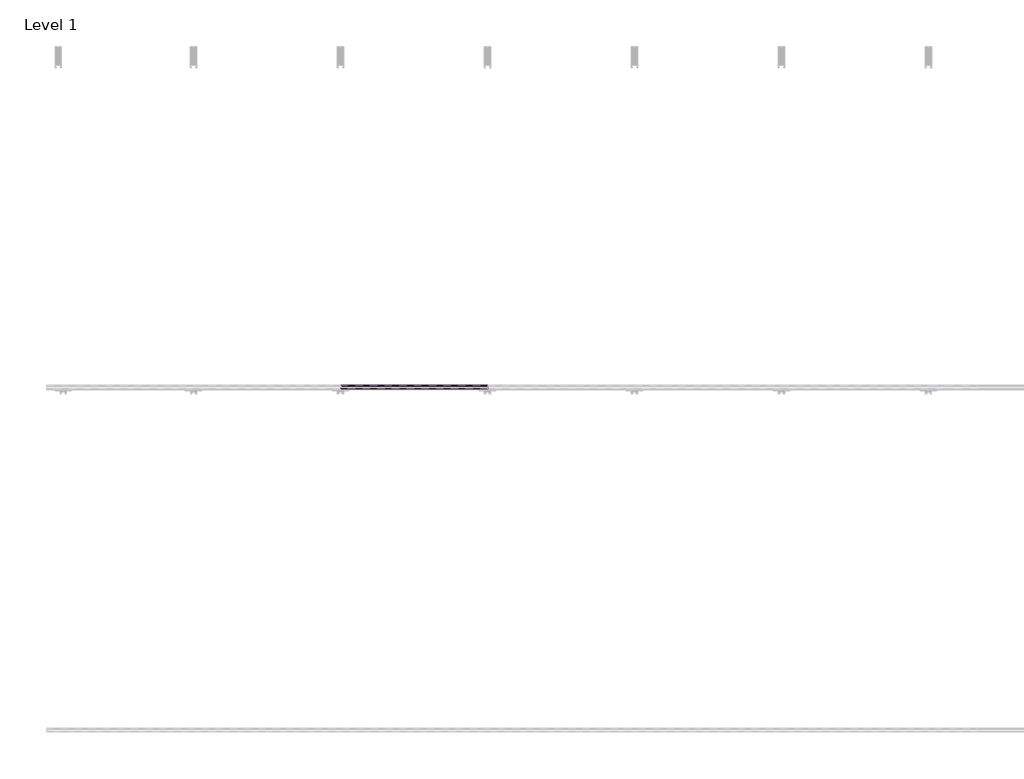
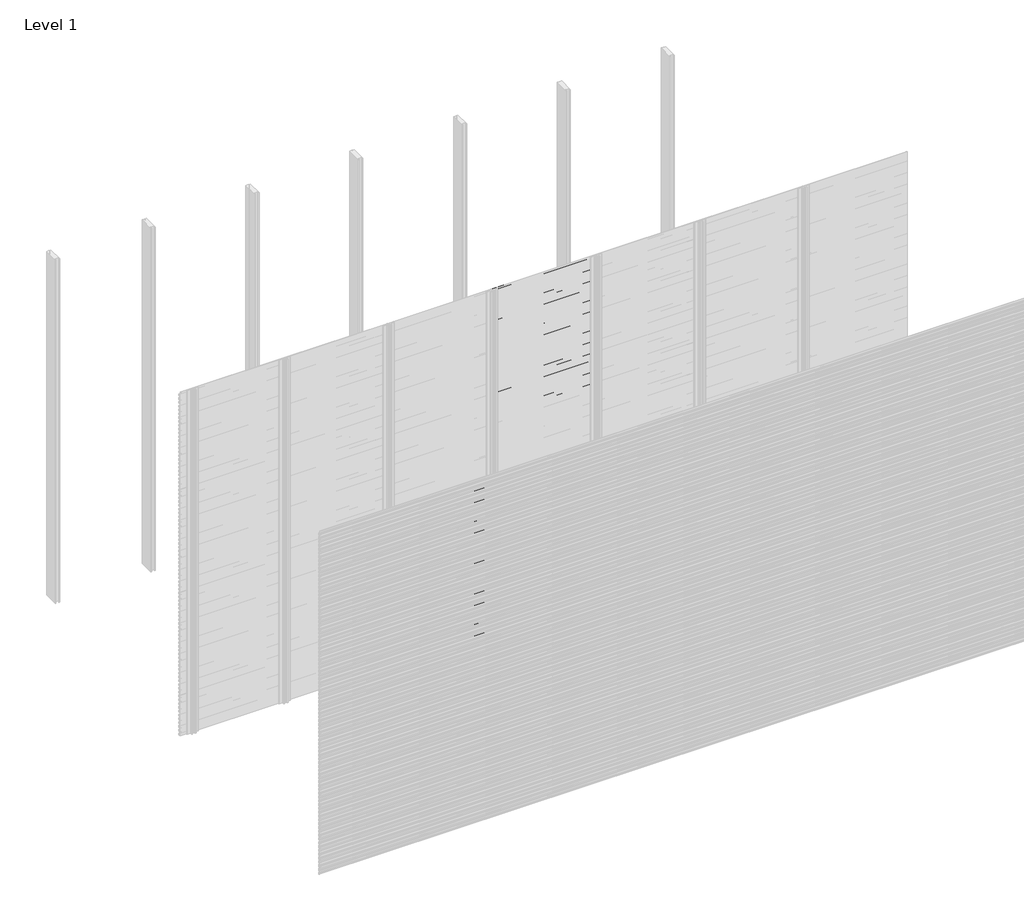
# One storey, part 8 of 96: 77 proxies.
"""IFC4 building model written with IfcOpenShell, lengths in millimetres."""

import ifcopenshell
import ifcopenshell.guid

model = None  # the IFC model being written
_history = None  # IfcOwnerHistory: only IFC2X3 demands one
_inside = {}  # id of a spatial element -> (the spatial element, [elements in it])
_under = {}  # id of a project, library or spatial element -> (it, [spatial elements below it])
_declared = {}  # id of a project -> (the project, [libraries it declares])
_typed = {}  # id of a type object -> (the type object, [elements of that type])
_made_of = {}  # id of a material, layer set ... -> (it, [elements and type objects made of it])


def new_model(schema):
    """Start an empty IFC model of exactly this schema.

    Asked for "IFC4X3", IfcOpenShell would pick the latest addendum, in which some entities
    have other attributes; the version numbers below select the first issue.
    IFC2X3 requires an IfcOwnerHistory on every rooted entity: one is made here for all.
    """
    global model, _history
    if schema == "IFC4X3":
        model = ifcopenshell.file(schema_version=(4, 3, 0, 0))
    else:
        model = ifcopenshell.file(schema=schema)
    _inside.clear()
    _under.clear()
    _declared.clear()
    _typed.clear()
    _made_of.clear()
    _history = None
    if model.schema == "IFC2X3":
        org = make("IfcOrganization", Name="unknown")
        user = make(
            "IfcPersonAndOrganization",
            ThePerson=make("IfcPerson", FamilyName="unknown"),
            TheOrganization=org,
        )
        app = make(
            "IfcApplication",
            ApplicationDeveloper=org,
            Version="unknown",
            ApplicationFullName="unknown",
            ApplicationIdentifier="unknown",
        )
        _history = make(
            "IfcOwnerHistory",
            OwningUser=user,
            OwningApplication=app,
            ChangeAction="ADDED",
            CreationDate=0,
        )
    return model


def make(cls, **values):
    """One entity of the class cls with the attributes given. An attribute that is None is left unset."""
    return model.create_entity(
        cls, **{name: value for name, value in values.items() if value is not None}
    )


def rooted(cls, **values):
    """An entity with a GlobalId (a new one), such as an element, a storey or a relation."""
    return make(cls, GlobalId=ifcopenshell.guid.new(), OwnerHistory=_history, **values)


def si_unit(unit_type, name, prefix=None):
    """IfcSIUnit, for example si_unit("LENGTHUNIT", "METRE", prefix="MILLI")."""
    return make("IfcSIUnit", UnitType=unit_type, Prefix=prefix, Name=name)


def assignment(units):
    """IfcUnitAssignment: the units of a project."""
    return None if units is None else make("IfcUnitAssignment", Units=units)


def point(xyz):
    """IfcCartesianPoint."""
    return None if xyz is None else make("IfcCartesianPoint", Coordinates=xyz)


def direction(xyz):
    """IfcDirection."""
    return None if xyz is None else make("IfcDirection", DirectionRatios=xyz)


def frame(location, z_axis=None, x_axis=None):
    """IfcAxis2Placement3D, a coordinate frame: its origin and axes. An axis left out is left unset."""
    return make(
        "IfcAxis2Placement3D",
        Location=point(location),
        Axis=direction(z_axis),
        RefDirection=direction(x_axis),
    )


def origin():
    """The frame at (0, 0, 0) with its axes left unset."""
    return frame((0.0, 0.0, 0.0))


def place(relative_to, where):
    """IfcLocalPlacement: puts the frame where relative to a parent placement (None: the world)."""
    return make(
        "IfcLocalPlacement", PlacementRelTo=relative_to, RelativePlacement=where
    )


def context(
    kind, dimensions, precision=None, world=None, true_north=None, identifier=None
):
    """IfcGeometricRepresentationContext, for example the 3D "Model" context."""
    return make(
        "IfcGeometricRepresentationContext",
        ContextIdentifier=identifier,
        ContextType=kind,
        CoordinateSpaceDimension=dimensions,
        Precision=precision,
        WorldCoordinateSystem=world,
        TrueNorth=true_north,
    )


def project(units=None, contexts=None):
    """IfcProject with its units and contexts."""
    return rooted(
        "IfcProject",
        Name="project",
        RepresentationContexts=contexts,
        UnitsInContext=assignment(units),
    )


def spatial(cls, under=None, at=None, **own):
    """A site, building, storey or space (cls), placed at a placement, below another one or the project."""
    s = rooted(cls, ObjectPlacement=at, **own)
    if under is not None:
        _under.setdefault(under.id(), (under, []))[1].append(s)
    return s


def polyline(points):
    """IfcPolyline through the points."""
    return make("IfcPolyline", Points=[point(p) for p in points])


def outline(outer, holes=None, kind="AREA"):
    """IfcArbitraryClosedProfileDef: a profile drawn as a closed curve; with holes, ...WithVoids."""
    if holes is None:
        return make("IfcArbitraryClosedProfileDef", ProfileType=kind, OuterCurve=outer)
    return make(
        "IfcArbitraryProfileDefWithVoids",
        ProfileType=kind,
        OuterCurve=outer,
        InnerCurves=holes,
    )


def extrude(swept, where, along, depth):
    """IfcExtrudedAreaSolid: the profile swept, set in the frame where, extruded along a direction by depth."""
    return make(
        "IfcExtrudedAreaSolid",
        SweptArea=swept,
        Position=where,
        ExtrudedDirection=direction(along),
        Depth=depth,
    )


def shape(context_of_items, identifier, shape_type, items):
    """IfcShapeRepresentation: the items that make up one representation, for example the "Body"."""
    return make(
        "IfcShapeRepresentation",
        ContextOfItems=context_of_items,
        RepresentationIdentifier=identifier,
        RepresentationType=shape_type,
        Items=items,
    )


def made_of(thing, what):
    """Note that an element or type object is made of a material, layer set ...; save() writes the relation."""
    if what is not None:
        _made_of.setdefault(what.id(), (what, []))[1].append(thing)
    return thing


def element(
    cls,
    number,
    at=None,
    inside=None,
    cuts=None,
    type_object=None,
    material=None,
    context=None,
    identifier="Body",
    shape_type=None,
    held_by="IfcProductDefinitionShape",
    body=None,
    shapes=None,
    **own,
):
    """One element of the class cls, such as IfcWall. Its Tag is "e" and its number.

    at: its placement. inside: the storey or other place that contains it. cuts: it is an
    opening in that element (IfcRelVoidsElement). A single representation is given by context,
    identifier, shape_type and body (its items); several are given by shapes. held_by: the class
    of the entity that holds the representations. save() writes the other relations.
    """
    e = rooted(cls, Tag="e%d" % number, ObjectPlacement=at, **own)
    if body is not None:
        shapes = [shape(context, identifier, shape_type, body)]
    if shapes is not None:
        e.Representation = make(held_by, Representations=shapes)
    if inside is not None:
        _inside.setdefault(inside.id(), (inside, []))[1].append(e)
    if cuts is not None:
        rooted(
            "IfcRelVoidsElement", RelatingBuildingElement=cuts, RelatedOpeningElement=e
        )
    if type_object is not None:
        _typed.setdefault(type_object.id(), (type_object, []))[1].append(e)
    return made_of(e, material)


def aggregate(whole, parts):
    """IfcRelAggregates: a whole, such as a stair, and the parts it consists of."""
    return rooted("IfcRelAggregates", RelatingObject=whole, RelatedObjects=parts)


def save(model, path):
    """Write the relations noted so far, then the file.

    IfcRelAggregates (storeys below a building ...), IfcRelContainedInSpatialStructure (elements
    in a storey), IfcRelDefinesByType, IfcRelAssociatesMaterial and IfcRelDeclares: one each for
    every whole, place, type object, material and project.
    """
    for whole, parts in _under.values():
        aggregate(whole, parts)
    for where, things in _inside.values():
        rooted(
            "IfcRelContainedInSpatialStructure",
            RelatedElements=things,
            RelatingStructure=where,
        )
    for kind, things in _typed.values():
        rooted("IfcRelDefinesByType", RelatedObjects=things, RelatingType=kind)
    for what, things in _made_of.values():
        rooted("IfcRelAssociatesMaterial", RelatedObjects=things, RelatingMaterial=what)
    for by, libraries in _declared.values():
        rooted("IfcRelDeclares", RelatingContext=by, RelatedDefinitions=libraries)
    model.write(path)


model = new_model("IFC4")

# Units and contexts
model_context = context("Model", 3, world=origin())
ifc_project = project(units=[si_unit("LENGTHUNIT", "METRE", prefix="MILLI")], contexts=[model_context])

# Site, building, storey
site = spatial("IfcSite", under=ifc_project)
building = spatial("IfcBuilding", under=site)
storey = spatial("IfcBuildingStorey", under=building, Name="Level 1", Elevation=0.0)

# Proxies
placement = place(None, origin())
element("IfcBuildingElementProxy", 1, Name="Wall Sweeps", at=placement, inside=storey, context=model_context, shape_type="SweptSolid", body=[
    extrude(outline(polyline([(-53977.6, 1373.3655033), (-53977.6, 1359.0779188), (-53982.4114965, 1356.3), (-53982.4114965, 1357.5701706), (-53978.85, 1359.6264016), (-53978.85, 1372.6437382), (-53998.0, 1383.7000799), (-53998.0, 1398.6), (-53996.75, 1398.6), (-53996.75, 1384.4217609), (-53977.6, 1373.3655033)])), frame((1714.2857143, 0.0, 0.0), z_axis=(1.0, 0.0, 0.0), x_axis=(0.0, 1.0, 0.0)), (0.0, 0.0, 1.0), 857.1428571),
])
element("IfcBuildingElementProxy", 2, Name="Wall Sweeps", at=placement, inside=storey, context=model_context, shape_type="SweptSolid", body=[
    extrude(outline(polyline([(-53977.6, 1340.0655033), (-53977.6, 1325.7779188), (-53982.4114965, 1323.0), (-53982.4114965, 1324.2701706), (-53978.85, 1326.3264016), (-53978.85, 1339.3437382), (-53998.0, 1350.4000799), (-53998.0, 1365.3), (-53996.75, 1365.3), (-53996.75, 1351.1217609), (-53977.6, 1340.0655033)])), frame((1714.2857143, 0.0, 0.0), z_axis=(1.0, 0.0, 0.0), x_axis=(0.0, 1.0, 0.0)), (0.0, 0.0, 1.0), 857.1428571),
])
element("IfcBuildingElementProxy", 3, Name="Wall Sweeps", at=placement, inside=storey, context=model_context, shape_type="SweptSolid", body=[
    extrude(outline(polyline([(-53977.6, 1306.7655033), (-53977.6, 1292.4779188), (-53982.4114965, 1289.7), (-53982.4114965, 1290.9701706), (-53978.85, 1293.0264016), (-53978.85, 1306.0437382), (-53998.0, 1317.1000799), (-53998.0, 1332.0), (-53996.75, 1332.0), (-53996.75, 1317.8217609), (-53977.6, 1306.7655033)])), frame((1714.2857143, 0.0, 0.0), z_axis=(1.0, 0.0, 0.0), x_axis=(0.0, 1.0, 0.0)), (0.0, 0.0, 1.0), 857.1428571),
])
element("IfcBuildingElementProxy", 4, Name="Wall Sweeps", at=placement, inside=storey, context=model_context, shape_type="SweptSolid", body=[
    extrude(outline(polyline([(-53977.6, 1273.4655033), (-53977.6, 1259.1779188), (-53982.4114965, 1256.4), (-53982.4114965, 1257.6701706), (-53978.85, 1259.7264016), (-53978.85, 1272.7437382), (-53998.0, 1283.8000799), (-53998.0, 1298.7), (-53996.75, 1298.7), (-53996.75, 1284.5217609), (-53977.6, 1273.4655033)])), frame((1714.2857143, 0.0, 0.0), z_axis=(1.0, 0.0, 0.0), x_axis=(0.0, 1.0, 0.0)), (0.0, 0.0, 1.0), 857.1428571),
])
element("IfcBuildingElementProxy", 5, Name="Wall Sweeps", at=placement, inside=storey, context=model_context, shape_type="SweptSolid", body=[
    extrude(outline(polyline([(-53977.6, 1240.1655033), (-53977.6, 1225.8779188), (-53982.4114965, 1223.1), (-53982.4114965, 1224.3701706), (-53978.85, 1226.4264016), (-53978.85, 1239.4437382), (-53998.0, 1250.5000799), (-53998.0, 1265.4), (-53996.75, 1265.4), (-53996.75, 1251.2217609), (-53977.6, 1240.1655033)])), frame((1714.2857143, 0.0, 0.0), z_axis=(1.0, 0.0, 0.0), x_axis=(0.0, 1.0, 0.0)), (0.0, 0.0, 1.0), 857.1428571),
])
element("IfcBuildingElementProxy", 6, Name="Wall Sweeps", at=placement, inside=storey, context=model_context, shape_type="SweptSolid", body=[
    extrude(outline(polyline([(-53977.6, 1206.8655033), (-53977.6, 1192.5779188), (-53982.4114965, 1189.8), (-53982.4114965, 1191.0701706), (-53978.85, 1193.1264016), (-53978.85, 1206.1437382), (-53998.0, 1217.2000799), (-53998.0, 1232.1), (-53996.75, 1232.1), (-53996.75, 1217.9217609), (-53977.6, 1206.8655033)])), frame((1714.2857143, 0.0, 0.0), z_axis=(1.0, 0.0, 0.0), x_axis=(0.0, 1.0, 0.0)), (0.0, 0.0, 1.0), 857.1428571),
])
element("IfcBuildingElementProxy", 7, Name="Wall Sweeps", at=placement, inside=storey, context=model_context, shape_type="SweptSolid", body=[
    extrude(outline(polyline([(-53977.6, 1173.5655033), (-53977.6, 1159.2779188), (-53982.4114965, 1156.5), (-53982.4114965, 1157.7701706), (-53978.85, 1159.8264016), (-53978.85, 1172.8437382), (-53998.0, 1183.9000799), (-53998.0, 1198.8), (-53996.75, 1198.8), (-53996.75, 1184.6217609), (-53977.6, 1173.5655033)])), frame((1714.2857143, 0.0, 0.0), z_axis=(1.0, 0.0, 0.0), x_axis=(0.0, 1.0, 0.0)), (0.0, 0.0, 1.0), 857.1428571),
])
element("IfcBuildingElementProxy", 8, Name="Wall Sweeps", at=placement, inside=storey, context=model_context, shape_type="SweptSolid", body=[
    extrude(outline(polyline([(-53977.6, 1140.2655033), (-53977.6, 1125.9779188), (-53982.4114965, 1123.2), (-53982.4114965, 1124.4701706), (-53978.85, 1126.5264016), (-53978.85, 1139.5437382), (-53998.0, 1150.6000799), (-53998.0, 1165.5), (-53996.75, 1165.5), (-53996.75, 1151.3217609), (-53977.6, 1140.2655033)])), frame((1714.2857143, 0.0, 0.0), z_axis=(1.0, 0.0, 0.0), x_axis=(0.0, 1.0, 0.0)), (0.0, 0.0, 1.0), 857.1428571),
])
element("IfcBuildingElementProxy", 9, Name="Wall Sweeps", at=placement, inside=storey, context=model_context, shape_type="SweptSolid", body=[
    extrude(outline(polyline([(-53977.6, 1106.9655033), (-53977.6, 1092.6779188), (-53982.4114965, 1089.9), (-53982.4114965, 1091.1701706), (-53978.85, 1093.2264016), (-53978.85, 1106.2437382), (-53998.0, 1117.3000799), (-53998.0, 1132.2), (-53996.75, 1132.2), (-53996.75, 1118.0217609), (-53977.6, 1106.9655033)])), frame((1714.2857143, 0.0, 0.0), z_axis=(1.0, 0.0, 0.0), x_axis=(0.0, 1.0, 0.0)), (0.0, 0.0, 1.0), 857.1428571),
])
element("IfcBuildingElementProxy", 10, Name="Wall Sweeps", at=placement, inside=storey, context=model_context, shape_type="SweptSolid", body=[
    extrude(outline(polyline([(-53977.6, 1073.6655033), (-53977.6, 1059.3779188), (-53982.4114965, 1056.6), (-53982.4114965, 1057.8701706), (-53978.85, 1059.9264016), (-53978.85, 1072.9437382), (-53998.0, 1084.0000799), (-53998.0, 1098.9), (-53996.75, 1098.9), (-53996.75, 1084.7217609), (-53977.6, 1073.6655033)])), frame((1714.2857143, 0.0, 0.0), z_axis=(1.0, 0.0, 0.0), x_axis=(0.0, 1.0, 0.0)), (0.0, 0.0, 1.0), 857.1428571),
])
element("IfcBuildingElementProxy", 11, Name="Wall Sweeps", at=placement, inside=storey, context=model_context, shape_type="SweptSolid", body=[
    extrude(outline(polyline([(-53977.6, 1040.3655033), (-53977.6, 1026.0779188), (-53982.4114965, 1023.3), (-53982.4114965, 1024.5701706), (-53978.85, 1026.6264016), (-53978.85, 1039.6437382), (-53998.0, 1050.7000799), (-53998.0, 1065.6), (-53996.75, 1065.6), (-53996.75, 1051.4217609), (-53977.6, 1040.3655033)])), frame((1714.2857143, 0.0, 0.0), z_axis=(1.0, 0.0, 0.0), x_axis=(0.0, 1.0, 0.0)), (0.0, 0.0, 1.0), 857.1428571),
])
element("IfcBuildingElementProxy", 12, Name="Wall Sweeps", at=placement, inside=storey, context=model_context, shape_type="SweptSolid", body=[
    extrude(outline(polyline([(-53977.6, 1007.0655033), (-53977.6, 992.7779188), (-53982.4114965, 990.0), (-53982.4114965, 991.2701706), (-53978.85, 993.3264016), (-53978.85, 1006.3437382), (-53998.0, 1017.4000799), (-53998.0, 1032.3), (-53996.75, 1032.3), (-53996.75, 1018.1217609), (-53977.6, 1007.0655033)])), frame((1714.2857143, 0.0, 0.0), z_axis=(1.0, 0.0, 0.0), x_axis=(0.0, 1.0, 0.0)), (0.0, 0.0, 1.0), 857.1428571),
])
element("IfcBuildingElementProxy", 13, Name="Wall Sweeps", at=placement, inside=storey, context=model_context, shape_type="SweptSolid", body=[
    extrude(outline(polyline([(-53977.6, 973.7655033), (-53977.6, 959.4779188), (-53982.4114965, 956.7), (-53982.4114965, 957.9701706), (-53978.85, 960.0264016), (-53978.85, 973.0437382), (-53998.0, 984.1000799), (-53998.0, 999.0), (-53996.75, 999.0), (-53996.75, 984.8217609), (-53977.6, 973.7655033)])), frame((1714.2857143, 0.0, 0.0), z_axis=(1.0, 0.0, 0.0), x_axis=(0.0, 1.0, 0.0)), (0.0, 0.0, 1.0), 857.1428571),
])
element("IfcBuildingElementProxy", 14, Name="Wall Sweeps", at=placement, inside=storey, context=model_context, shape_type="SweptSolid", body=[
    extrude(outline(polyline([(-53977.6, 940.4655033), (-53977.6, 926.1779188), (-53982.4114965, 923.4), (-53982.4114965, 924.6701706), (-53978.85, 926.7264016), (-53978.85, 939.7437382), (-53998.0, 950.8000799), (-53998.0, 965.7), (-53996.75, 965.7), (-53996.75, 951.5217609), (-53977.6, 940.4655033)])), frame((1714.2857143, 0.0, 0.0), z_axis=(1.0, 0.0, 0.0), x_axis=(0.0, 1.0, 0.0)), (0.0, 0.0, 1.0), 857.1428571),
])
element("IfcBuildingElementProxy", 15, Name="Wall Sweeps", at=placement, inside=storey, context=model_context, shape_type="SweptSolid", body=[
    extrude(outline(polyline([(-53977.6, 907.1655033), (-53977.6, 892.8779188), (-53982.4114965, 890.1), (-53982.4114965, 891.3701706), (-53978.85, 893.4264016), (-53978.85, 906.4437382), (-53998.0, 917.5000799), (-53998.0, 932.4), (-53996.75, 932.4), (-53996.75, 918.2217609), (-53977.6, 907.1655033)])), frame((1714.2857143, 0.0, 0.0), z_axis=(1.0, 0.0, 0.0), x_axis=(0.0, 1.0, 0.0)), (0.0, 0.0, 1.0), 857.1428571),
])
element("IfcBuildingElementProxy", 16, Name="Wall Sweeps", at=placement, inside=storey, context=model_context, shape_type="SweptSolid", body=[
    extrude(outline(polyline([(-53977.6, 873.8655033), (-53977.6, 859.5779188), (-53982.4114965, 856.8), (-53982.4114965, 858.0701706), (-53978.85, 860.1264016), (-53978.85, 873.1437382), (-53998.0, 884.2000799), (-53998.0, 899.1), (-53996.75, 899.1), (-53996.75, 884.9217609), (-53977.6, 873.8655033)])), frame((1714.2857143, 0.0, 0.0), z_axis=(1.0, 0.0, 0.0), x_axis=(0.0, 1.0, 0.0)), (0.0, 0.0, 1.0), 857.1428571),
])
element("IfcBuildingElementProxy", 17, Name="Wall Sweeps", at=placement, inside=storey, context=model_context, shape_type="SweptSolid", body=[
    extrude(outline(polyline([(-53977.6, 840.5655033), (-53977.6, 826.2779188), (-53982.4114965, 823.5), (-53982.4114965, 824.7701706), (-53978.85, 826.8264016), (-53978.85, 839.8437382), (-53998.0, 850.9000799), (-53998.0, 865.8), (-53996.75, 865.8), (-53996.75, 851.6217609), (-53977.6, 840.5655033)])), frame((1714.2857143, 0.0, 0.0), z_axis=(1.0, 0.0, 0.0), x_axis=(0.0, 1.0, 0.0)), (0.0, 0.0, 1.0), 857.1428571),
])
element("IfcBuildingElementProxy", 18, Name="Wall Sweeps", at=placement, inside=storey, context=model_context, shape_type="SweptSolid", body=[
    extrude(outline(polyline([(-53977.6, 807.2655033), (-53977.6, 792.9779188), (-53982.4114965, 790.2), (-53982.4114965, 791.4701706), (-53978.85, 793.5264016), (-53978.85, 806.5437382), (-53998.0, 817.6000799), (-53998.0, 832.5), (-53996.75, 832.5), (-53996.75, 818.3217609), (-53977.6, 807.2655033)])), frame((1714.2857143, 0.0, 0.0), z_axis=(1.0, 0.0, 0.0), x_axis=(0.0, 1.0, 0.0)), (0.0, 0.0, 1.0), 857.1428571),
])
element("IfcBuildingElementProxy", 19, Name="Wall Sweeps", at=placement, inside=storey, context=model_context, shape_type="SweptSolid", body=[
    extrude(outline(polyline([(-53977.6, 773.9655033), (-53977.6, 759.6779188), (-53982.4114965, 756.9), (-53982.4114965, 758.1701706), (-53978.85, 760.2264016), (-53978.85, 773.2437382), (-53998.0, 784.3000799), (-53998.0, 799.2), (-53996.75, 799.2), (-53996.75, 785.0217609), (-53977.6, 773.9655033)])), frame((1714.2857143, 0.0, 0.0), z_axis=(1.0, 0.0, 0.0), x_axis=(0.0, 1.0, 0.0)), (0.0, 0.0, 1.0), 857.1428571),
])
element("IfcBuildingElementProxy", 20, Name="Wall Sweeps", at=placement, inside=storey, context=model_context, shape_type="SweptSolid", body=[
    extrude(outline(polyline([(-53977.6, 740.6655033), (-53977.6, 726.3779188), (-53982.4114965, 723.6), (-53982.4114965, 724.8701706), (-53978.85, 726.9264016), (-53978.85, 739.9437382), (-53998.0, 751.0000799), (-53998.0, 765.9), (-53996.75, 765.9), (-53996.75, 751.7217609), (-53977.6, 740.6655033)])), frame((1714.2857143, 0.0, 0.0), z_axis=(1.0, 0.0, 0.0), x_axis=(0.0, 1.0, 0.0)), (0.0, 0.0, 1.0), 857.1428571),
])
element("IfcBuildingElementProxy", 21, Name="Wall Sweeps", at=placement, inside=storey, context=model_context, shape_type="SweptSolid", body=[
    extrude(outline(polyline([(-53977.6, 707.3655033), (-53977.6, 693.0779188), (-53982.4114965, 690.3), (-53982.4114965, 691.5701706), (-53978.85, 693.6264016), (-53978.85, 706.6437382), (-53998.0, 717.7000799), (-53998.0, 732.6), (-53996.75, 732.6), (-53996.75, 718.4217609), (-53977.6, 707.3655033)])), frame((1714.2857143, 0.0, 0.0), z_axis=(1.0, 0.0, 0.0), x_axis=(0.0, 1.0, 0.0)), (0.0, 0.0, 1.0), 857.1428571),
])
element("IfcBuildingElementProxy", 22, Name="Wall Sweeps", at=placement, inside=storey, context=model_context, shape_type="SweptSolid", body=[
    extrude(outline(polyline([(-53977.6, 674.0655033), (-53977.6, 659.7779188), (-53982.4114965, 657.0), (-53982.4114965, 658.2701706), (-53978.85, 660.3264016), (-53978.85, 673.3437382), (-53998.0, 684.4000799), (-53998.0, 699.3), (-53996.75, 699.3), (-53996.75, 685.1217609), (-53977.6, 674.0655033)])), frame((1714.2857143, 0.0, 0.0), z_axis=(1.0, 0.0, 0.0), x_axis=(0.0, 1.0, 0.0)), (0.0, 0.0, 1.0), 857.1428571),
])
element("IfcBuildingElementProxy", 23, Name="Wall Sweeps", at=placement, inside=storey, context=model_context, shape_type="SweptSolid", body=[
    extrude(outline(polyline([(-53977.6, 640.7655033), (-53977.6, 626.4779188), (-53982.4114965, 623.7), (-53982.4114965, 624.9701706), (-53978.85, 627.0264016), (-53978.85, 640.0437382), (-53998.0, 651.1000799), (-53998.0, 666.0), (-53996.75, 666.0), (-53996.75, 651.8217609), (-53977.6, 640.7655033)])), frame((1714.2857143, 0.0, 0.0), z_axis=(1.0, 0.0, 0.0), x_axis=(0.0, 1.0, 0.0)), (0.0, 0.0, 1.0), 857.1428571),
])
element("IfcBuildingElementProxy", 24, Name="Wall Sweeps", at=placement, inside=storey, context=model_context, shape_type="SweptSolid", body=[
    extrude(outline(polyline([(-53977.6, 607.4655033), (-53977.6, 593.1779188), (-53982.4114965, 590.4), (-53982.4114965, 591.6701706), (-53978.85, 593.7264016), (-53978.85, 606.7437382), (-53998.0, 617.8000799), (-53998.0, 632.7), (-53996.75, 632.7), (-53996.75, 618.5217609), (-53977.6, 607.4655033)])), frame((1714.2857143, 0.0, 0.0), z_axis=(1.0, 0.0, 0.0), x_axis=(0.0, 1.0, 0.0)), (0.0, 0.0, 1.0), 857.1428571),
])
element("IfcBuildingElementProxy", 25, Name="Wall Sweeps", at=placement, inside=storey, context=model_context, shape_type="SweptSolid", body=[
    extrude(outline(polyline([(-53977.6, 574.1655033), (-53977.6, 559.8779188), (-53982.4114965, 557.1), (-53982.4114965, 558.3701706), (-53978.85, 560.4264016), (-53978.85, 573.4437382), (-53998.0, 584.5000799), (-53998.0, 599.4), (-53996.75, 599.4), (-53996.75, 585.2217609), (-53977.6, 574.1655033)])), frame((1714.2857143, 0.0, 0.0), z_axis=(1.0, 0.0, 0.0), x_axis=(0.0, 1.0, 0.0)), (0.0, 0.0, 1.0), 857.1428571),
])
element("IfcBuildingElementProxy", 26, Name="Wall Sweeps", at=placement, inside=storey, context=model_context, shape_type="SweptSolid", body=[
    extrude(outline(polyline([(-53977.6, 540.8655033), (-53977.6, 526.5779188), (-53982.4114965, 523.8), (-53982.4114965, 525.0701706), (-53978.85, 527.1264016), (-53978.85, 540.1437382), (-53998.0, 551.2000799), (-53998.0, 566.1), (-53996.75, 566.1), (-53996.75, 551.9217609), (-53977.6, 540.8655033)])), frame((1714.2857143, 0.0, 0.0), z_axis=(1.0, 0.0, 0.0), x_axis=(0.0, 1.0, 0.0)), (0.0, 0.0, 1.0), 857.1428571),
])
element("IfcBuildingElementProxy", 27, Name="Wall Sweeps", at=placement, inside=storey, context=model_context, shape_type="SweptSolid", body=[
    extrude(outline(polyline([(-53977.6, 507.5655033), (-53977.6, 493.2779188), (-53982.4114965, 490.5), (-53982.4114965, 491.7701706), (-53978.85, 493.8264016), (-53978.85, 506.8437382), (-53998.0, 517.9000799), (-53998.0, 532.8), (-53996.75, 532.8), (-53996.75, 518.6217609), (-53977.6, 507.5655033)])), frame((1714.2857143, 0.0, 0.0), z_axis=(1.0, 0.0, 0.0), x_axis=(0.0, 1.0, 0.0)), (0.0, 0.0, 1.0), 857.1428571),
])
element("IfcBuildingElementProxy", 28, Name="Wall Sweeps", at=placement, inside=storey, context=model_context, shape_type="SweptSolid", body=[
    extrude(outline(polyline([(-53977.6, 474.2655033), (-53977.6, 459.9779188), (-53982.4114965, 457.2), (-53982.4114965, 458.4701706), (-53978.85, 460.5264016), (-53978.85, 473.5437382), (-53998.0, 484.6000799), (-53998.0, 499.5), (-53996.75, 499.5), (-53996.75, 485.3217609), (-53977.6, 474.2655033)])), frame((1714.2857143, 0.0, 0.0), z_axis=(1.0, 0.0, 0.0), x_axis=(0.0, 1.0, 0.0)), (0.0, 0.0, 1.0), 857.1428571),
])
element("IfcBuildingElementProxy", 29, Name="Wall Sweeps", at=placement, inside=storey, context=model_context, shape_type="SweptSolid", body=[
    extrude(outline(polyline([(-53977.6, 440.9655033), (-53977.6, 426.6779188), (-53982.4114965, 423.9), (-53982.4114965, 425.1701706), (-53978.85, 427.2264016), (-53978.85, 440.2437382), (-53998.0, 451.3000799), (-53998.0, 466.2), (-53996.75, 466.2), (-53996.75, 452.0217609), (-53977.6, 440.9655033)])), frame((1714.2857143, 0.0, 0.0), z_axis=(1.0, 0.0, 0.0), x_axis=(0.0, 1.0, 0.0)), (0.0, 0.0, 1.0), 857.1428571),
])
element("IfcBuildingElementProxy", 30, Name="Wall Sweeps", at=placement, inside=storey, context=model_context, shape_type="SweptSolid", body=[
    extrude(outline(polyline([(-53977.6, 407.6655033), (-53977.6, 393.3779188), (-53982.4114965, 390.6), (-53982.4114965, 391.8701706), (-53978.85, 393.9264016), (-53978.85, 406.9437382), (-53998.0, 418.0000799), (-53998.0, 432.9), (-53996.75, 432.9), (-53996.75, 418.7217609), (-53977.6, 407.6655033)])), frame((1714.2857143, 0.0, 0.0), z_axis=(1.0, 0.0, 0.0), x_axis=(0.0, 1.0, 0.0)), (0.0, 0.0, 1.0), 857.1428571),
])
element("IfcBuildingElementProxy", 31, Name="Wall Sweeps", at=placement, inside=storey, context=model_context, shape_type="SweptSolid", body=[
    extrude(outline(polyline([(-53977.6, 374.3655033), (-53977.6, 360.0779188), (-53982.4114965, 357.3), (-53982.4114965, 358.5701706), (-53978.85, 360.6264016), (-53978.85, 373.6437382), (-53998.0, 384.7000799), (-53998.0, 399.6), (-53996.75, 399.6), (-53996.75, 385.4217609), (-53977.6, 374.3655033)])), frame((1714.2857143, 0.0, 0.0), z_axis=(1.0, 0.0, 0.0), x_axis=(0.0, 1.0, 0.0)), (0.0, 0.0, 1.0), 857.1428571),
])
element("IfcBuildingElementProxy", 32, Name="Wall Sweeps", at=placement, inside=storey, context=model_context, shape_type="SweptSolid", body=[
    extrude(outline(polyline([(-53977.6, 341.0655033), (-53977.6, 326.7779188), (-53982.4114965, 324.0), (-53982.4114965, 325.2701706), (-53978.85, 327.3264016), (-53978.85, 340.3437382), (-53998.0, 351.4000799), (-53998.0, 366.3), (-53996.75, 366.3), (-53996.75, 352.1217609), (-53977.6, 341.0655033)])), frame((1714.2857143, 0.0, 0.0), z_axis=(1.0, 0.0, 0.0), x_axis=(0.0, 1.0, 0.0)), (0.0, 0.0, 1.0), 857.1428571),
])
element("IfcBuildingElementProxy", 33, Name="Wall Sweeps", at=placement, inside=storey, context=model_context, shape_type="SweptSolid", body=[
    extrude(outline(polyline([(-53977.6, 307.7655033), (-53977.6, 293.4779188), (-53982.4114965, 290.7), (-53982.4114965, 291.9701706), (-53978.85, 294.0264016), (-53978.85, 307.0437382), (-53998.0, 318.1000799), (-53998.0, 333.0), (-53996.75, 333.0), (-53996.75, 318.8217609), (-53977.6, 307.7655033)])), frame((1714.2857143, 0.0, 0.0), z_axis=(1.0, 0.0, 0.0), x_axis=(0.0, 1.0, 0.0)), (0.0, 0.0, 1.0), 857.1428571),
])
element("IfcBuildingElementProxy", 34, Name="Wall Sweeps", at=placement, inside=storey, context=model_context, shape_type="SweptSolid", body=[
    extrude(outline(polyline([(-53977.6, 274.4655033), (-53977.6, 260.1779188), (-53982.4114965, 257.4), (-53982.4114965, 258.6701706), (-53978.85, 260.7264016), (-53978.85, 273.7437382), (-53998.0, 284.8000799), (-53998.0, 299.7), (-53996.75, 299.7), (-53996.75, 285.5217609), (-53977.6, 274.4655033)])), frame((1714.2857143, 0.0, 0.0), z_axis=(1.0, 0.0, 0.0), x_axis=(0.0, 1.0, 0.0)), (0.0, 0.0, 1.0), 857.1428571),
])
element("IfcBuildingElementProxy", 35, Name="Wall Sweeps", at=placement, inside=storey, context=model_context, shape_type="SweptSolid", body=[
    extrude(outline(polyline([(-53977.6, 241.1655033), (-53977.6, 226.8779188), (-53982.4114965, 224.1), (-53982.4114965, 225.3701706), (-53978.85, 227.4264016), (-53978.85, 240.4437382), (-53998.0, 251.5000799), (-53998.0, 266.4), (-53996.75, 266.4), (-53996.75, 252.2217609), (-53977.6, 241.1655033)])), frame((1714.2857143, 0.0, 0.0), z_axis=(1.0, 0.0, 0.0), x_axis=(0.0, 1.0, 0.0)), (0.0, 0.0, 1.0), 857.1428571),
])
element("IfcBuildingElementProxy", 36, Name="Wall Sweeps", at=placement, inside=storey, context=model_context, shape_type="SweptSolid", body=[
    extrude(outline(polyline([(-53977.6, 207.8655033), (-53977.6, 193.5779188), (-53982.4114965, 190.8), (-53982.4114965, 192.0701706), (-53978.85, 194.1264016), (-53978.85, 207.1437382), (-53998.0, 218.2000799), (-53998.0, 233.1), (-53996.75, 233.1), (-53996.75, 218.9217609), (-53977.6, 207.8655033)])), frame((1714.2857143, 0.0, 0.0), z_axis=(1.0, 0.0, 0.0), x_axis=(0.0, 1.0, 0.0)), (0.0, 0.0, 1.0), 857.1428571),
])
element("IfcBuildingElementProxy", 37, Name="Wall Sweeps", at=placement, inside=storey, context=model_context, shape_type="SweptSolid", body=[
    extrude(outline(polyline([(-53977.6, 174.5655033), (-53977.6, 160.2779188), (-53982.4114965, 157.5), (-53982.4114965, 158.7701706), (-53978.85, 160.8264016), (-53978.85, 173.8437382), (-53998.0, 184.9000799), (-53998.0, 199.8), (-53996.75, 199.8), (-53996.75, 185.6217609), (-53977.6, 174.5655033)])), frame((1714.2857143, 0.0, 0.0), z_axis=(1.0, 0.0, 0.0), x_axis=(0.0, 1.0, 0.0)), (0.0, 0.0, 1.0), 857.1428571),
])
element("IfcBuildingElementProxy", 38, Name="Wall Sweeps", at=placement, inside=storey, context=model_context, shape_type="SweptSolid", body=[
    extrude(outline(polyline([(-53977.6, 141.2655033), (-53977.6, 126.9779188), (-53982.4114965, 124.2), (-53982.4114965, 125.4701706), (-53978.85, 127.5264016), (-53978.85, 140.5437382), (-53998.0, 151.6000799), (-53998.0, 166.5), (-53996.75, 166.5), (-53996.75, 152.3217609), (-53977.6, 141.2655033)])), frame((1714.2857143, 0.0, 0.0), z_axis=(1.0, 0.0, 0.0), x_axis=(0.0, 1.0, 0.0)), (0.0, 0.0, 1.0), 857.1428571),
])
element("IfcBuildingElementProxy", 39, Name="Wall Sweeps", at=placement, inside=storey, context=model_context, shape_type="SweptSolid", body=[
    extrude(outline(polyline([(-53977.6, 107.9655033), (-53977.6, 93.6779188), (-53982.4114965, 90.9), (-53982.4114965, 92.1701706), (-53978.85, 94.2264016), (-53978.85, 107.2437382), (-53998.0, 118.3000799), (-53998.0, 133.2), (-53996.75, 133.2), (-53996.75, 119.0217609), (-53977.6, 107.9655033)])), frame((1714.2857143, 0.0, 0.0), z_axis=(1.0, 0.0, 0.0), x_axis=(0.0, 1.0, 0.0)), (0.0, 0.0, 1.0), 857.1428571),
])
element("IfcBuildingElementProxy", 40, Name="Wall Sweeps", at=placement, inside=storey, context=model_context, shape_type="SweptSolid", body=[
    extrude(outline(polyline([(-53977.6, 74.6655033), (-53977.6, 60.3779188), (-53982.4114965, 57.6), (-53982.4114965, 58.8701706), (-53978.85, 60.9264016), (-53978.85, 73.9437382), (-53998.0, 85.0000799), (-53998.0, 99.9), (-53996.75, 99.9), (-53996.75, 85.7217609), (-53977.6, 74.6655033)])), frame((1714.2857143, 0.0, 0.0), z_axis=(1.0, 0.0, 0.0), x_axis=(0.0, 1.0, 0.0)), (0.0, 0.0, 1.0), 857.1428571),
])
element("IfcBuildingElementProxy", 41, Name="Wall Sweeps", at=placement, inside=storey, context=model_context, shape_type="SweptSolid", body=[
    extrude(outline(polyline([(-53977.6, 41.3655033), (-53977.6, 27.0779188), (-53982.4114965, 24.3), (-53982.4114965, 25.5701706), (-53978.85, 27.6264016), (-53978.85, 40.6437382), (-53998.0, 51.7000799), (-53998.0, 66.6), (-53996.75, 66.6), (-53996.75, 52.4217609), (-53977.6, 41.3655033)])), frame((1714.2857143, 0.0, 0.0), z_axis=(1.0, 0.0, 0.0), x_axis=(0.0, 1.0, 0.0)), (0.0, 0.0, 1.0), 857.1428571),
])
element("IfcBuildingElementProxy", 42, Name="Wall Sweeps", at=placement, inside=storey, context=model_context, shape_type="SweptSolid", body=[
    extrude(outline(polyline([(-53977.6, 8.0655033), (-53977.6, -6.2220812), (-53982.4114965, -9.0), (-53982.4114965, -7.7298294), (-53978.85, -5.6735984), (-53978.85, 7.3437382), (-53998.0, 18.4000799), (-53998.0, 33.3), (-53996.75, 33.3), (-53996.75, 19.1217609), (-53977.6, 8.0655033)])), frame((1714.2857143, 0.0, 0.0), z_axis=(1.0, 0.0, 0.0), x_axis=(0.0, 1.0, 0.0)), (0.0, 0.0, 1.0), 857.1428571),
])
element("IfcBuildingElementProxy", 43, Name="Wall Sweeps", at=placement, inside=storey, context=model_context, shape_type="SweptSolid", body=[
    extrude(outline(polyline([(-53977.6, 2971.7655033), (-53977.6, 2957.4779188), (-53982.4114965, 2954.7), (-53982.4114965, 2955.9701706), (-53978.85, 2958.0264016), (-53978.85, 2971.0437382), (-53998.0, 2982.1000799), (-53998.0, 2997.0), (-53996.75, 2997.0), (-53996.75, 2982.8217609), (-53977.6, 2971.7655033)])), frame((2571.4285714, 0.0, 0.0), z_axis=(1.0, 0.0, 0.0), x_axis=(0.0, 1.0, 0.0)), (0.0, 0.0, 1.0), 857.1428571),
])
element("IfcBuildingElementProxy", 44, Name="Wall Sweeps", at=placement, inside=storey, context=model_context, shape_type="SweptSolid", body=[
    extrude(outline(polyline([(-53977.6, 2938.4655033), (-53977.6, 2924.1779188), (-53982.4114965, 2921.4), (-53982.4114965, 2922.6701706), (-53978.85, 2924.7264016), (-53978.85, 2937.7437382), (-53998.0, 2948.8000799), (-53998.0, 2963.7), (-53996.75, 2963.7), (-53996.75, 2949.5217609), (-53977.6, 2938.4655033)])), frame((2571.4285714, 0.0, 0.0), z_axis=(1.0, 0.0, 0.0), x_axis=(0.0, 1.0, 0.0)), (0.0, 0.0, 1.0), 857.1428571),
])
element("IfcBuildingElementProxy", 45, Name="Wall Sweeps", at=placement, inside=storey, context=model_context, shape_type="SweptSolid", body=[
    extrude(outline(polyline([(-53977.6, 2905.1655033), (-53977.6, 2890.8779188), (-53982.4114965, 2888.1), (-53982.4114965, 2889.3701706), (-53978.85, 2891.4264016), (-53978.85, 2904.4437382), (-53998.0, 2915.5000799), (-53998.0, 2930.4), (-53996.75, 2930.4), (-53996.75, 2916.2217609), (-53977.6, 2905.1655033)])), frame((2571.4285714, 0.0, 0.0), z_axis=(1.0, 0.0, 0.0), x_axis=(0.0, 1.0, 0.0)), (0.0, 0.0, 1.0), 857.1428571),
])
element("IfcBuildingElementProxy", 46, Name="Wall Sweeps", at=placement, inside=storey, context=model_context, shape_type="SweptSolid", body=[
    extrude(outline(polyline([(-53977.6, 2871.8655033), (-53977.6, 2857.5779188), (-53982.4114965, 2854.8), (-53982.4114965, 2856.0701706), (-53978.85, 2858.1264016), (-53978.85, 2871.1437382), (-53998.0, 2882.2000799), (-53998.0, 2897.1), (-53996.75, 2897.1), (-53996.75, 2882.9217609), (-53977.6, 2871.8655033)])), frame((2571.4285714, 0.0, 0.0), z_axis=(1.0, 0.0, 0.0), x_axis=(0.0, 1.0, 0.0)), (0.0, 0.0, 1.0), 857.1428571),
])
element("IfcBuildingElementProxy", 47, Name="Wall Sweeps", at=placement, inside=storey, context=model_context, shape_type="SweptSolid", body=[
    extrude(outline(polyline([(-53977.6, 2838.5655033), (-53977.6, 2824.2779188), (-53982.4114965, 2821.5), (-53982.4114965, 2822.7701706), (-53978.85, 2824.8264016), (-53978.85, 2837.8437382), (-53998.0, 2848.9000799), (-53998.0, 2863.8), (-53996.75, 2863.8), (-53996.75, 2849.6217609), (-53977.6, 2838.5655033)])), frame((2571.4285714, 0.0, 0.0), z_axis=(1.0, 0.0, 0.0), x_axis=(0.0, 1.0, 0.0)), (0.0, 0.0, 1.0), 857.1428571),
])
element("IfcBuildingElementProxy", 48, Name="Wall Sweeps", at=placement, inside=storey, context=model_context, shape_type="SweptSolid", body=[
    extrude(outline(polyline([(-53977.6, 2805.2655033), (-53977.6, 2790.9779188), (-53982.4114965, 2788.2), (-53982.4114965, 2789.4701706), (-53978.85, 2791.5264016), (-53978.85, 2804.5437382), (-53998.0, 2815.6000799), (-53998.0, 2830.5), (-53996.75, 2830.5), (-53996.75, 2816.3217609), (-53977.6, 2805.2655033)])), frame((2571.4285714, 0.0, 0.0), z_axis=(1.0, 0.0, 0.0), x_axis=(0.0, 1.0, 0.0)), (0.0, 0.0, 1.0), 857.1428571),
])
element("IfcBuildingElementProxy", 49, Name="Wall Sweeps", at=placement, inside=storey, context=model_context, shape_type="SweptSolid", body=[
    extrude(outline(polyline([(-53977.6, 2771.9655033), (-53977.6, 2757.6779188), (-53982.4114965, 2754.9), (-53982.4114965, 2756.1701706), (-53978.85, 2758.2264016), (-53978.85, 2771.2437382), (-53998.0, 2782.3000799), (-53998.0, 2797.2), (-53996.75, 2797.2), (-53996.75, 2783.0217609), (-53977.6, 2771.9655033)])), frame((2571.4285714, 0.0, 0.0), z_axis=(1.0, 0.0, 0.0), x_axis=(0.0, 1.0, 0.0)), (0.0, 0.0, 1.0), 857.1428571),
])
element("IfcBuildingElementProxy", 50, Name="Wall Sweeps", at=placement, inside=storey, context=model_context, shape_type="SweptSolid", body=[
    extrude(outline(polyline([(-53977.6, 2738.6655033), (-53977.6, 2724.3779188), (-53982.4114965, 2721.6), (-53982.4114965, 2722.8701706), (-53978.85, 2724.9264016), (-53978.85, 2737.9437382), (-53998.0, 2749.0000799), (-53998.0, 2763.9), (-53996.75, 2763.9), (-53996.75, 2749.7217609), (-53977.6, 2738.6655033)])), frame((2571.4285714, 0.0, 0.0), z_axis=(1.0, 0.0, 0.0), x_axis=(0.0, 1.0, 0.0)), (0.0, 0.0, 1.0), 857.1428571),
])
element("IfcBuildingElementProxy", 51, Name="Wall Sweeps", at=placement, inside=storey, context=model_context, shape_type="SweptSolid", body=[
    extrude(outline(polyline([(-53977.6, 2705.3655033), (-53977.6, 2691.0779188), (-53982.4114965, 2688.3), (-53982.4114965, 2689.5701706), (-53978.85, 2691.6264016), (-53978.85, 2704.6437382), (-53998.0, 2715.7000799), (-53998.0, 2730.6), (-53996.75, 2730.6), (-53996.75, 2716.4217609), (-53977.6, 2705.3655033)])), frame((2571.4285714, 0.0, 0.0), z_axis=(1.0, 0.0, 0.0), x_axis=(0.0, 1.0, 0.0)), (0.0, 0.0, 1.0), 857.1428571),
])
element("IfcBuildingElementProxy", 52, Name="Wall Sweeps", at=placement, inside=storey, context=model_context, shape_type="SweptSolid", body=[
    extrude(outline(polyline([(-53977.6, 2672.0655033), (-53977.6, 2657.7779188), (-53982.4114965, 2655.0), (-53982.4114965, 2656.2701706), (-53978.85, 2658.3264016), (-53978.85, 2671.3437382), (-53998.0, 2682.4000799), (-53998.0, 2697.3), (-53996.75, 2697.3), (-53996.75, 2683.1217609), (-53977.6, 2672.0655033)])), frame((2571.4285714, 0.0, 0.0), z_axis=(1.0, 0.0, 0.0), x_axis=(0.0, 1.0, 0.0)), (0.0, 0.0, 1.0), 857.1428571),
])
element("IfcBuildingElementProxy", 53, Name="Wall Sweeps", at=placement, inside=storey, context=model_context, shape_type="SweptSolid", body=[
    extrude(outline(polyline([(-53977.6, 2638.7655033), (-53977.6, 2624.4779188), (-53982.4114965, 2621.7), (-53982.4114965, 2622.9701706), (-53978.85, 2625.0264016), (-53978.85, 2638.0437382), (-53998.0, 2649.1000799), (-53998.0, 2664.0), (-53996.75, 2664.0), (-53996.75, 2649.8217609), (-53977.6, 2638.7655033)])), frame((2571.4285714, 0.0, 0.0), z_axis=(1.0, 0.0, 0.0), x_axis=(0.0, 1.0, 0.0)), (0.0, 0.0, 1.0), 857.1428571),
])
element("IfcBuildingElementProxy", 54, Name="Wall Sweeps", at=placement, inside=storey, context=model_context, shape_type="SweptSolid", body=[
    extrude(outline(polyline([(-53977.6, 2605.4655033), (-53977.6, 2591.1779188), (-53982.4114965, 2588.4), (-53982.4114965, 2589.6701706), (-53978.85, 2591.7264016), (-53978.85, 2604.7437382), (-53998.0, 2615.8000799), (-53998.0, 2630.7), (-53996.75, 2630.7), (-53996.75, 2616.5217609), (-53977.6, 2605.4655033)])), frame((2571.4285714, 0.0, 0.0), z_axis=(1.0, 0.0, 0.0), x_axis=(0.0, 1.0, 0.0)), (0.0, 0.0, 1.0), 857.1428571),
])
element("IfcBuildingElementProxy", 55, Name="Wall Sweeps", at=placement, inside=storey, context=model_context, shape_type="SweptSolid", body=[
    extrude(outline(polyline([(-53977.6, 2572.1655033), (-53977.6, 2557.8779188), (-53982.4114965, 2555.1), (-53982.4114965, 2556.3701706), (-53978.85, 2558.4264016), (-53978.85, 2571.4437382), (-53998.0, 2582.5000799), (-53998.0, 2597.4), (-53996.75, 2597.4), (-53996.75, 2583.2217609), (-53977.6, 2572.1655033)])), frame((2571.4285714, 0.0, 0.0), z_axis=(1.0, 0.0, 0.0), x_axis=(0.0, 1.0, 0.0)), (0.0, 0.0, 1.0), 857.1428571),
])
element("IfcBuildingElementProxy", 56, Name="Wall Sweeps", at=placement, inside=storey, context=model_context, shape_type="SweptSolid", body=[
    extrude(outline(polyline([(-53977.6, 2538.8655033), (-53977.6, 2524.5779188), (-53982.4114965, 2521.8), (-53982.4114965, 2523.0701706), (-53978.85, 2525.1264016), (-53978.85, 2538.1437382), (-53998.0, 2549.2000799), (-53998.0, 2564.1), (-53996.75, 2564.1), (-53996.75, 2549.9217609), (-53977.6, 2538.8655033)])), frame((2571.4285714, 0.0, 0.0), z_axis=(1.0, 0.0, 0.0), x_axis=(0.0, 1.0, 0.0)), (0.0, 0.0, 1.0), 857.1428571),
])
element("IfcBuildingElementProxy", 57, Name="Wall Sweeps", at=placement, inside=storey, context=model_context, shape_type="SweptSolid", body=[
    extrude(outline(polyline([(-53977.6, 2505.5655033), (-53977.6, 2491.2779188), (-53982.4114965, 2488.5), (-53982.4114965, 2489.7701706), (-53978.85, 2491.8264016), (-53978.85, 2504.8437382), (-53998.0, 2515.9000799), (-53998.0, 2530.8), (-53996.75, 2530.8), (-53996.75, 2516.6217609), (-53977.6, 2505.5655033)])), frame((2571.4285714, 0.0, 0.0), z_axis=(1.0, 0.0, 0.0), x_axis=(0.0, 1.0, 0.0)), (0.0, 0.0, 1.0), 857.1428571),
])
element("IfcBuildingElementProxy", 58, Name="Wall Sweeps", at=placement, inside=storey, context=model_context, shape_type="SweptSolid", body=[
    extrude(outline(polyline([(-53977.6, 2472.2655033), (-53977.6, 2457.9779188), (-53982.4114965, 2455.2), (-53982.4114965, 2456.4701706), (-53978.85, 2458.5264016), (-53978.85, 2471.5437382), (-53998.0, 2482.6000799), (-53998.0, 2497.5), (-53996.75, 2497.5), (-53996.75, 2483.3217609), (-53977.6, 2472.2655033)])), frame((2571.4285714, 0.0, 0.0), z_axis=(1.0, 0.0, 0.0), x_axis=(0.0, 1.0, 0.0)), (0.0, 0.0, 1.0), 857.1428571),
])
element("IfcBuildingElementProxy", 59, Name="Wall Sweeps", at=placement, inside=storey, context=model_context, shape_type="SweptSolid", body=[
    extrude(outline(polyline([(-53977.6, 2438.9655033), (-53977.6, 2424.6779188), (-53982.4114965, 2421.9), (-53982.4114965, 2423.1701706), (-53978.85, 2425.2264016), (-53978.85, 2438.2437382), (-53998.0, 2449.3000799), (-53998.0, 2464.2), (-53996.75, 2464.2), (-53996.75, 2450.0217609), (-53977.6, 2438.9655033)])), frame((2571.4285714, 0.0, 0.0), z_axis=(1.0, 0.0, 0.0), x_axis=(0.0, 1.0, 0.0)), (0.0, 0.0, 1.0), 857.1428571),
])
element("IfcBuildingElementProxy", 60, Name="Wall Sweeps", at=placement, inside=storey, context=model_context, shape_type="SweptSolid", body=[
    extrude(outline(polyline([(-53977.6, 2405.6655033), (-53977.6, 2391.3779188), (-53982.4114965, 2388.6), (-53982.4114965, 2389.8701706), (-53978.85, 2391.9264016), (-53978.85, 2404.9437382), (-53998.0, 2416.0000799), (-53998.0, 2430.9), (-53996.75, 2430.9), (-53996.75, 2416.7217609), (-53977.6, 2405.6655033)])), frame((2571.4285714, 0.0, 0.0), z_axis=(1.0, 0.0, 0.0), x_axis=(0.0, 1.0, 0.0)), (0.0, 0.0, 1.0), 857.1428571),
])
element("IfcBuildingElementProxy", 61, Name="Wall Sweeps", at=placement, inside=storey, context=model_context, shape_type="SweptSolid", body=[
    extrude(outline(polyline([(-53977.6, 2372.3655033), (-53977.6, 2358.0779188), (-53982.4114965, 2355.3), (-53982.4114965, 2356.5701706), (-53978.85, 2358.6264016), (-53978.85, 2371.6437382), (-53998.0, 2382.7000799), (-53998.0, 2397.6), (-53996.75, 2397.6), (-53996.75, 2383.4217609), (-53977.6, 2372.3655033)])), frame((2571.4285714, 0.0, 0.0), z_axis=(1.0, 0.0, 0.0), x_axis=(0.0, 1.0, 0.0)), (0.0, 0.0, 1.0), 857.1428571),
])
element("IfcBuildingElementProxy", 62, Name="Wall Sweeps", at=placement, inside=storey, context=model_context, shape_type="SweptSolid", body=[
    extrude(outline(polyline([(-53977.6, 2339.0655033), (-53977.6, 2324.7779188), (-53982.4114965, 2322.0), (-53982.4114965, 2323.2701706), (-53978.85, 2325.3264016), (-53978.85, 2338.3437382), (-53998.0, 2349.4000799), (-53998.0, 2364.3), (-53996.75, 2364.3), (-53996.75, 2350.1217609), (-53977.6, 2339.0655033)])), frame((2571.4285714, 0.0, 0.0), z_axis=(1.0, 0.0, 0.0), x_axis=(0.0, 1.0, 0.0)), (0.0, 0.0, 1.0), 857.1428571),
])
element("IfcBuildingElementProxy", 63, Name="Wall Sweeps", at=placement, inside=storey, context=model_context, shape_type="SweptSolid", body=[
    extrude(outline(polyline([(-53977.6, 2305.7655033), (-53977.6, 2291.4779188), (-53982.4114965, 2288.7), (-53982.4114965, 2289.9701706), (-53978.85, 2292.0264016), (-53978.85, 2305.0437382), (-53998.0, 2316.1000799), (-53998.0, 2331.0), (-53996.75, 2331.0), (-53996.75, 2316.8217609), (-53977.6, 2305.7655033)])), frame((2571.4285714, 0.0, 0.0), z_axis=(1.0, 0.0, 0.0), x_axis=(0.0, 1.0, 0.0)), (0.0, 0.0, 1.0), 857.1428571),
])
element("IfcBuildingElementProxy", 64, Name="Wall Sweeps", at=placement, inside=storey, context=model_context, shape_type="SweptSolid", body=[
    extrude(outline(polyline([(-53977.6, 2272.4655033), (-53977.6, 2258.1779188), (-53982.4114965, 2255.4), (-53982.4114965, 2256.6701706), (-53978.85, 2258.7264016), (-53978.85, 2271.7437382), (-53998.0, 2282.8000799), (-53998.0, 2297.7), (-53996.75, 2297.7), (-53996.75, 2283.5217609), (-53977.6, 2272.4655033)])), frame((2571.4285714, 0.0, 0.0), z_axis=(1.0, 0.0, 0.0), x_axis=(0.0, 1.0, 0.0)), (0.0, 0.0, 1.0), 857.1428571),
])
element("IfcBuildingElementProxy", 65, Name="Wall Sweeps", at=placement, inside=storey, context=model_context, shape_type="SweptSolid", body=[
    extrude(outline(polyline([(-53977.6, 2239.1655033), (-53977.6, 2224.8779188), (-53982.4114965, 2222.1), (-53982.4114965, 2223.3701706), (-53978.85, 2225.4264016), (-53978.85, 2238.4437382), (-53998.0, 2249.5000799), (-53998.0, 2264.4), (-53996.75, 2264.4), (-53996.75, 2250.2217609), (-53977.6, 2239.1655033)])), frame((2571.4285714, 0.0, 0.0), z_axis=(1.0, 0.0, 0.0), x_axis=(0.0, 1.0, 0.0)), (0.0, 0.0, 1.0), 857.1428571),
])
element("IfcBuildingElementProxy", 66, Name="Wall Sweeps", at=placement, inside=storey, context=model_context, shape_type="SweptSolid", body=[
    extrude(outline(polyline([(-53977.6, 2205.8655033), (-53977.6, 2191.5779188), (-53982.4114965, 2188.8), (-53982.4114965, 2190.0701706), (-53978.85, 2192.1264016), (-53978.85, 2205.1437382), (-53998.0, 2216.2000799), (-53998.0, 2231.1), (-53996.75, 2231.1), (-53996.75, 2216.9217609), (-53977.6, 2205.8655033)])), frame((2571.4285714, 0.0, 0.0), z_axis=(1.0, 0.0, 0.0), x_axis=(0.0, 1.0, 0.0)), (0.0, 0.0, 1.0), 857.1428571),
])
element("IfcBuildingElementProxy", 67, Name="Wall Sweeps", at=placement, inside=storey, context=model_context, shape_type="SweptSolid", body=[
    extrude(outline(polyline([(-53977.6, 2172.5655033), (-53977.6, 2158.2779188), (-53982.4114965, 2155.5), (-53982.4114965, 2156.7701706), (-53978.85, 2158.8264016), (-53978.85, 2171.8437382), (-53998.0, 2182.9000799), (-53998.0, 2197.8), (-53996.75, 2197.8), (-53996.75, 2183.6217609), (-53977.6, 2172.5655033)])), frame((2571.4285714, 0.0, 0.0), z_axis=(1.0, 0.0, 0.0), x_axis=(0.0, 1.0, 0.0)), (0.0, 0.0, 1.0), 857.1428571),
])
element("IfcBuildingElementProxy", 68, Name="Wall Sweeps", at=placement, inside=storey, context=model_context, shape_type="SweptSolid", body=[
    extrude(outline(polyline([(-53977.6, 2139.2655033), (-53977.6, 2124.9779188), (-53982.4114965, 2122.2), (-53982.4114965, 2123.4701706), (-53978.85, 2125.5264016), (-53978.85, 2138.5437382), (-53998.0, 2149.6000799), (-53998.0, 2164.5), (-53996.75, 2164.5), (-53996.75, 2150.3217609), (-53977.6, 2139.2655033)])), frame((2571.4285714, 0.0, 0.0), z_axis=(1.0, 0.0, 0.0), x_axis=(0.0, 1.0, 0.0)), (0.0, 0.0, 1.0), 857.1428571),
])
element("IfcBuildingElementProxy", 69, Name="Wall Sweeps", at=placement, inside=storey, context=model_context, shape_type="SweptSolid", body=[
    extrude(outline(polyline([(-53977.6, 2105.9655033), (-53977.6, 2091.6779188), (-53982.4114965, 2088.9), (-53982.4114965, 2090.1701706), (-53978.85, 2092.2264016), (-53978.85, 2105.2437382), (-53998.0, 2116.3000799), (-53998.0, 2131.2), (-53996.75, 2131.2), (-53996.75, 2117.0217609), (-53977.6, 2105.9655033)])), frame((2571.4285714, 0.0, 0.0), z_axis=(1.0, 0.0, 0.0), x_axis=(0.0, 1.0, 0.0)), (0.0, 0.0, 1.0), 857.1428571),
])
element("IfcBuildingElementProxy", 70, Name="Wall Sweeps", at=placement, inside=storey, context=model_context, shape_type="SweptSolid", body=[
    extrude(outline(polyline([(-53977.6, 2072.6655033), (-53977.6, 2058.3779188), (-53982.4114965, 2055.6), (-53982.4114965, 2056.8701706), (-53978.85, 2058.9264016), (-53978.85, 2071.9437382), (-53998.0, 2083.0000799), (-53998.0, 2097.9), (-53996.75, 2097.9), (-53996.75, 2083.7217609), (-53977.6, 2072.6655033)])), frame((2571.4285714, 0.0, 0.0), z_axis=(1.0, 0.0, 0.0), x_axis=(0.0, 1.0, 0.0)), (0.0, 0.0, 1.0), 857.1428571),
])
element("IfcBuildingElementProxy", 71, Name="Wall Sweeps", at=placement, inside=storey, context=model_context, shape_type="SweptSolid", body=[
    extrude(outline(polyline([(-53977.6, 2039.3655033), (-53977.6, 2025.0779188), (-53982.4114965, 2022.3), (-53982.4114965, 2023.5701706), (-53978.85, 2025.6264016), (-53978.85, 2038.6437382), (-53998.0, 2049.7000799), (-53998.0, 2064.6), (-53996.75, 2064.6), (-53996.75, 2050.4217609), (-53977.6, 2039.3655033)])), frame((2571.4285714, 0.0, 0.0), z_axis=(1.0, 0.0, 0.0), x_axis=(0.0, 1.0, 0.0)), (0.0, 0.0, 1.0), 857.1428571),
])
element("IfcBuildingElementProxy", 72, Name="Wall Sweeps", at=placement, inside=storey, context=model_context, shape_type="SweptSolid", body=[
    extrude(outline(polyline([(-53977.6, 2006.0655033), (-53977.6, 1991.7779188), (-53982.4114965, 1989.0), (-53982.4114965, 1990.2701706), (-53978.85, 1992.3264016), (-53978.85, 2005.3437382), (-53998.0, 2016.4000799), (-53998.0, 2031.3), (-53996.75, 2031.3), (-53996.75, 2017.1217609), (-53977.6, 2006.0655033)])), frame((2571.4285714, 0.0, 0.0), z_axis=(1.0, 0.0, 0.0), x_axis=(0.0, 1.0, 0.0)), (0.0, 0.0, 1.0), 857.1428571),
])
element("IfcBuildingElementProxy", 73, Name="Wall Sweeps", at=placement, inside=storey, context=model_context, shape_type="SweptSolid", body=[
    extrude(outline(polyline([(-53977.6, 1972.7655033), (-53977.6, 1958.4779188), (-53982.4114965, 1955.7), (-53982.4114965, 1956.9701706), (-53978.85, 1959.0264016), (-53978.85, 1972.0437382), (-53998.0, 1983.1000799), (-53998.0, 1998.0), (-53996.75, 1998.0), (-53996.75, 1983.8217609), (-53977.6, 1972.7655033)])), frame((2571.4285714, 0.0, 0.0), z_axis=(1.0, 0.0, 0.0), x_axis=(0.0, 1.0, 0.0)), (0.0, 0.0, 1.0), 857.1428571),
])
element("IfcBuildingElementProxy", 74, Name="Wall Sweeps", at=placement, inside=storey, context=model_context, shape_type="SweptSolid", body=[
    extrude(outline(polyline([(-53977.6, 1939.4655033), (-53977.6, 1925.1779188), (-53982.4114965, 1922.4), (-53982.4114965, 1923.6701706), (-53978.85, 1925.7264016), (-53978.85, 1938.7437382), (-53998.0, 1949.8000799), (-53998.0, 1964.7), (-53996.75, 1964.7), (-53996.75, 1950.5217609), (-53977.6, 1939.4655033)])), frame((2571.4285714, 0.0, 0.0), z_axis=(1.0, 0.0, 0.0), x_axis=(0.0, 1.0, 0.0)), (0.0, 0.0, 1.0), 857.1428571),
])
element("IfcBuildingElementProxy", 75, Name="Wall Sweeps", at=placement, inside=storey, context=model_context, shape_type="SweptSolid", body=[
    extrude(outline(polyline([(-53977.6, 1906.1655033), (-53977.6, 1891.8779188), (-53982.4114965, 1889.1), (-53982.4114965, 1890.3701706), (-53978.85, 1892.4264016), (-53978.85, 1905.4437382), (-53998.0, 1916.5000799), (-53998.0, 1931.4), (-53996.75, 1931.4), (-53996.75, 1917.2217609), (-53977.6, 1906.1655033)])), frame((2571.4285714, 0.0, 0.0), z_axis=(1.0, 0.0, 0.0), x_axis=(0.0, 1.0, 0.0)), (0.0, 0.0, 1.0), 857.1428571),
])
element("IfcBuildingElementProxy", 76, Name="Wall Sweeps", at=placement, inside=storey, context=model_context, shape_type="SweptSolid", body=[
    extrude(outline(polyline([(-53977.6, 1872.8655033), (-53977.6, 1858.5779188), (-53982.4114965, 1855.8), (-53982.4114965, 1857.0701706), (-53978.85, 1859.1264016), (-53978.85, 1872.1437382), (-53998.0, 1883.2000799), (-53998.0, 1898.1), (-53996.75, 1898.1), (-53996.75, 1883.9217609), (-53977.6, 1872.8655033)])), frame((2571.4285714, 0.0, 0.0), z_axis=(1.0, 0.0, 0.0), x_axis=(0.0, 1.0, 0.0)), (0.0, 0.0, 1.0), 857.1428571),
])
element("IfcBuildingElementProxy", 77, Name="Wall Sweeps", at=placement, inside=storey, context=model_context, shape_type="SweptSolid", body=[
    extrude(outline(polyline([(-53977.6, 1839.5655033), (-53977.6, 1825.2779188), (-53982.4114965, 1822.5), (-53982.4114965, 1823.7701706), (-53978.85, 1825.8264016), (-53978.85, 1838.8437382), (-53998.0, 1849.9000799), (-53998.0, 1864.8), (-53996.75, 1864.8), (-53996.75, 1850.6217609), (-53977.6, 1839.5655033)])), frame((2571.4285714, 0.0, 0.0), z_axis=(1.0, 0.0, 0.0), x_axis=(0.0, 1.0, 0.0)), (0.0, 0.0, 1.0), 857.1428571),
])

save(model, "model.ifc")
